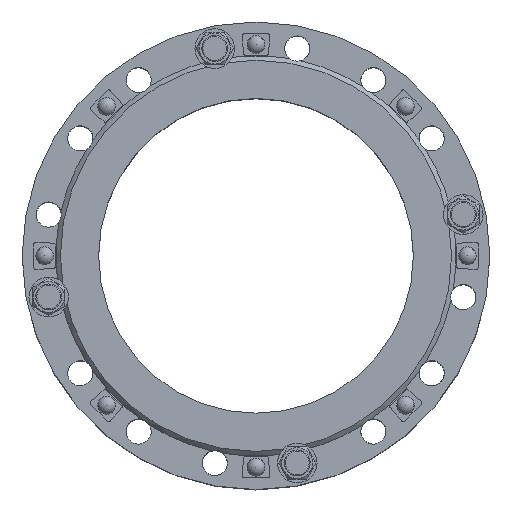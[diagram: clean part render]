
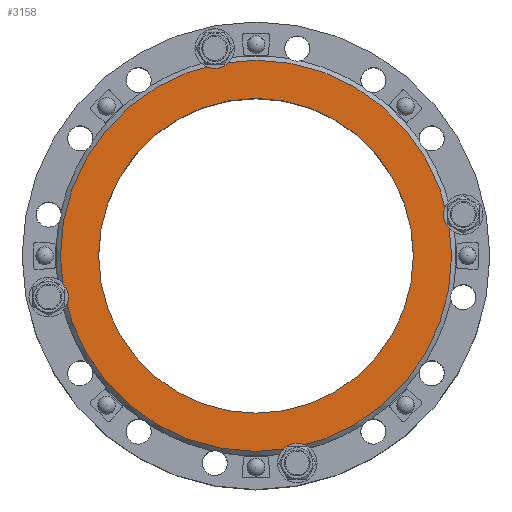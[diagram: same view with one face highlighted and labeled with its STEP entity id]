
A CAD part, top view. The second image highlights one B-rep face of the part: STEP entity #3158.
In plain terms, the highlighted planar face has unit normal (0, 0, 1) as drawn and (0, 0, -1) by its records, which use the part's own axes.
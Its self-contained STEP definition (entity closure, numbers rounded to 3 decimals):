
#3158=ADVANCED_FACE('',(#4966,#4968),#4970,.F.);
#4966=FACE_BOUND('',#4967,.T.);
#4967=EDGE_LOOP('',(#7317));
#4968=FACE_BOUND('',#4969,.T.);
#4969=EDGE_LOOP('',(#7318));
#4970=PLANE('',#4971);
#4971=AXIS2_PLACEMENT_3D('',#4972,#4973,#4974);
#4972=CARTESIAN_POINT('',(0.,0.,0.));
#4973=DIRECTION('',(0.,0.,1.));
#4974=DIRECTION('',(-1.,0.,0.));
#7317=ORIENTED_EDGE('',*,*,#8235,.F.);
#7318=ORIENTED_EDGE('',*,*,#8365,.T.);
#8235=EDGE_CURVE('',#9421,#9421,#9422,.T.);
#8365=EDGE_CURVE('',#9617,#9617,#9618,.T.);
#9421=VERTEX_POINT('',#17371);
#9422=CIRCLE('',#17372,217.5);
#9617=VERTEX_POINT('',#17861);
#9618=CIRCLE('',#17862,175.);
#17371=CARTESIAN_POINT('',(-217.5,0.,0.));
#17372=AXIS2_PLACEMENT_3D('',#17373,#17374,#17375);
#17373=CARTESIAN_POINT('',(0.,0.,0.));
#17374=DIRECTION('',(0.,0.,1.));
#17375=DIRECTION('',(-1.,0.,0.));
#17861=CARTESIAN_POINT('',(-175.,0.,0.));
#17862=AXIS2_PLACEMENT_3D('',#17863,#17864,#17865);
#17863=CARTESIAN_POINT('',(0.,0.,0.));
#17864=DIRECTION('',(0.,0.,1.));
#17865=DIRECTION('',(-1.,0.,0.));
